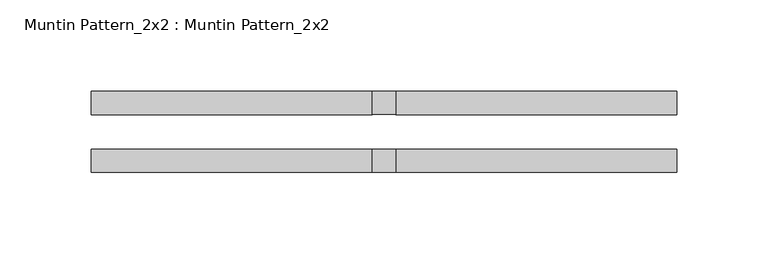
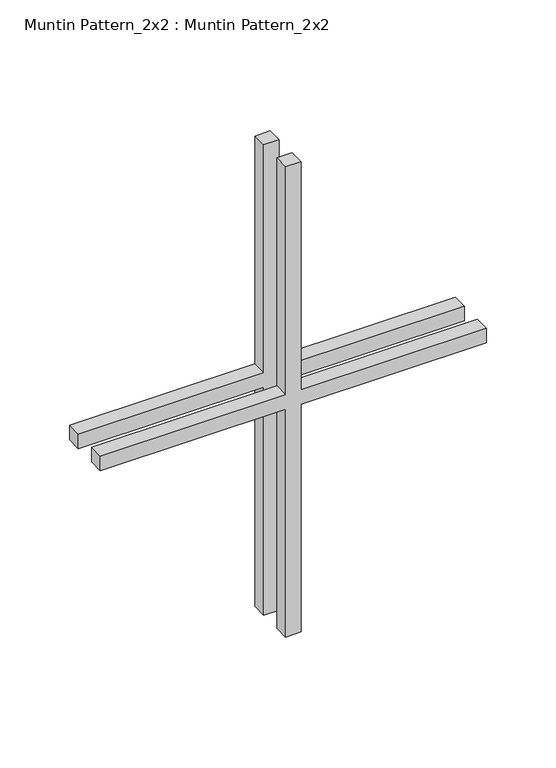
"""IFC4 building model written with IfcOpenShell, lengths in millimetres: proxy geometry, Muntin Pattern_2x2 : Muntin Pattern_2x2."""

from ifc_helpers import new_model, si_unit, frame, origin, place, context, project, spatial, polyline, outline, extrude, source, transform, mapped, element, save


def muntin_pattern_2x2_muntin_pattern_2x2_9e38aa54(model_context):
    return source(origin(), model_context, "Body", "SweptSolid", [
        extrude(outline(polyline([(212.725, -6.35), (212.725, -160.3375), (200.025, -160.3375), (200.025, -6.35), (0.0, -6.35), (0.0, 6.35), (200.025, 6.35), (200.025, 160.3375), (212.725, 160.3375), (212.725, 6.35), (412.75, 6.35), (412.75, -6.35), (212.725, -6.35)])), frame((0.0, 9.525, 0.0), z_axis=(0.0, 1.0, 0.0), x_axis=(0.0, 0.0, 1.0)), (0.0, 0.0, 1.0), 12.7),
        extrude(outline(polyline([(212.725, -6.35), (212.725, -160.3375), (200.025, -160.3375), (200.025, -6.35), (0.0, -6.35), (0.0, 6.35), (200.025, 6.35), (200.025, 160.3375), (212.725, 160.3375), (212.725, 6.35), (412.75, 6.35), (412.75, -6.35), (212.725, -6.35)])), frame((0.0, -22.225, 0.0), z_axis=(0.0, 1.0, 0.0), x_axis=(0.0, 0.0, 1.0)), (0.0, 0.0, 1.0), 12.7),
    ])


if __name__ == "__main__":
    model = new_model("IFC4")
    model_context = context("Model", 3, world=origin())
    ifc_project = project(units=[si_unit("LENGTHUNIT", "METRE", prefix="MILLI")], contexts=[model_context])
    site = spatial("IfcSite", under=ifc_project)
    building = spatial("IfcBuilding", under=site)
    placement = place(None, origin())
    muntin_pattern_2x2_muntin_pattern_2x2_shape = muntin_pattern_2x2_muntin_pattern_2x2_9e38aa54(model_context)
    element("IfcBuildingElementProxy", 1, Name="Muntin Pattern_2x2 : Muntin Pattern_2x2", ObjectType="Muntin Pattern_2x2 : Muntin Pattern_2x2", at=placement, inside=building, context=model_context, shape_type="MappedRepresentation", body=[
        mapped(muntin_pattern_2x2_muntin_pattern_2x2_shape, transform((0.0, 0.0, 0.0), x_axis=(1.0, 0.0, 0.0), y_axis=(0.0, 1.0, 0.0), z_axis=(0.0, 0.0, 1.0))),
    ])
    save(model, "model.ifc")
